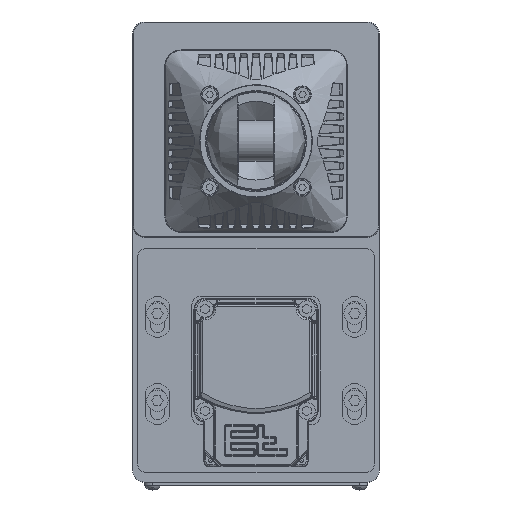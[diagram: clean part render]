
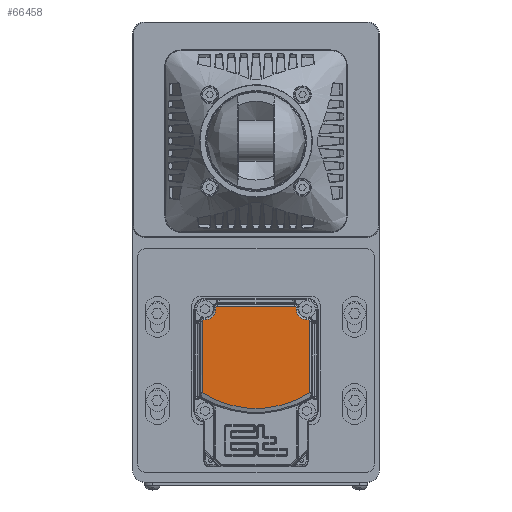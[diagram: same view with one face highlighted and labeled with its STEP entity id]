
A CAD part, top view. The second image highlights one B-rep face of the part: STEP entity #66458.
In plain terms, the highlighted planar face has unit normal (0, 0, 1).
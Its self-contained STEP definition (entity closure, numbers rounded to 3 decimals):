
#1190 = LINE ( 'NONE', #146391, #216400 ) ;
#4683 = CARTESIAN_POINT ( 'NONE',  ( 268.862, 78.586, 448.429 ) ) ;
#4698 = ORIENTED_EDGE ( 'NONE', *, *, #87255, .T. ) ;
#7681 = EDGE_CURVE ( 'NONE', #181042, #134661, #155809, .T. ) ;
#17870 = DIRECTION ( 'NONE',  ( 0., 1., 0. ) ) ;
#19426 = CARTESIAN_POINT ( 'NONE',  ( 277.062, 86.786, 448.429 ) ) ;
#20913 = VERTEX_POINT ( 'NONE', #4683 ) ;
#26207 = EDGE_CURVE ( 'NONE', #174732, #162903, #73092, .T. ) ;
#27582 = VERTEX_POINT ( 'NONE', #217280 ) ;
#29011 = LINE ( 'NONE', #86560, #155527 ) ;
#29278 = CARTESIAN_POINT ( 'NONE',  ( 334.296, 78.569, 448.429 ) ) ;
#33425 = EDGE_CURVE ( 'NONE', #169690, #83680, #216131, .T. ) ;
#36104 = EDGE_CURVE ( 'NONE', #162903, #27582, #137563, .T. ) ;
#36777 = AXIS2_PLACEMENT_3D ( 'NONE', #135337, #86142, #84954 ) ;
#39162 = CARTESIAN_POINT ( 'NONE',  ( 332.579, 79.586, 448.429 ) ) ;
#43099 = FACE_OUTER_BOUND ( 'NONE', #205046, .T. ) ;
#43243 = DIRECTION ( 'NONE',  ( 0., 0., 1. ) ) ;
#46270 = ORIENTED_EDGE ( 'NONE', *, *, #102351, .T. ) ;
#50025 = VERTEX_POINT ( 'NONE', #39162 ) ;
#52653 = DIRECTION ( 'NONE',  ( 0., -1., 0. ) ) ;
#54125 = ORIENTED_EDGE ( 'NONE', *, *, #7681, .T. ) ;
#55825 = VERTEX_POINT ( 'NONE', #215738 ) ;
#56664 = CARTESIAN_POINT ( 'NONE',  ( 277.476, 87.786, 448.429 ) ) ;
#58502 = ORIENTED_EDGE ( 'NONE', *, *, #191805, .T. ) ;
#62596 = CARTESIAN_POINT ( 'NONE',  ( 277.062, 86.068, 448.429 ) ) ;
#66458 = ADVANCED_FACE ( 'NONE', ( #43099 ), #189362, .T. ) ;
#67003 = CARTESIAN_POINT ( 'NONE',  ( 326.096, 86.786, 448.429 ) ) ;
#71844 = CARTESIAN_POINT ( 'NONE',  ( 268.862, 79.172, 448.429 ) ) ;
#73038 = EDGE_CURVE ( 'NONE', #185731, #148477, #1190, .T. ) ;
#73092 = LINE ( 'NONE', #216847, #146862 ) ;
#74474 = DIRECTION ( 'NONE',  ( -1., 0., 0. ) ) ;
#82206 = CARTESIAN_POINT ( 'NONE',  ( 269.862, 79.586, 448.429 ) ) ;
#82732 = CARTESIAN_POINT ( 'NONE',  ( 301.579, 86.368, 448.429 ) ) ;
#83680 = VERTEX_POINT ( 'NONE', #62596 ) ;
#84954 = DIRECTION ( 'NONE',  ( 0., 1., 0. ) ) ;
#86142 = DIRECTION ( 'NONE',  ( 0., 0., 1. ) ) ;
#86546 = DIRECTION ( 'NONE',  ( 0., 0., -1. ) ) ;
#86560 = CARTESIAN_POINT ( 'NONE',  ( 332.579, 79.586, 448.429 ) ) ;
#87255 = EDGE_CURVE ( 'NONE', #235136, #55825, #98462, .T. ) ;
#88640 = DIRECTION ( 'NONE',  ( 0., 0., -1. ) ) ;
#88670 = LINE ( 'NONE', #161740, #92834 ) ;
#89757 = CARTESIAN_POINT ( 'NONE',  ( 333.882, 79.586, 448.429 ) ) ;
#89841 = CARTESIAN_POINT ( 'NONE',  ( 269.276, 79.586, 448.429 ) ) ;
#92834 = VECTOR ( 'NONE', #52653, 1000. ) ;
#98462 = CIRCLE ( 'NONE', #155974, 60.8 ) ;
#99321 = VERTEX_POINT ( 'NONE', #128629 ) ;
#99555 = ORIENTED_EDGE ( 'NONE', *, *, #73038, .T. ) ;
#102351 = EDGE_CURVE ( 'NONE', #55825, #181042, #230561, .T. ) ;
#104761 = CARTESIAN_POINT ( 'NONE',  ( 334.296, 78.586, 448.429 ) ) ;
#107826 = DIRECTION ( 'NONE',  ( -1., 0., 0. ) ) ;
#110393 = VECTOR ( 'NONE', #107826, 1000. ) ;
#111048 = CARTESIAN_POINT ( 'NONE',  ( 270.579, 79.586, 448.429 ) ) ;
#114149 = VECTOR ( 'NONE', #139606, 1000. ) ;
#118919 = DIRECTION ( 'NONE',  ( -1., 0., 0. ) ) ;
#124044 = CARTESIAN_POINT ( 'NONE',  ( 325.097, 87.786, 448.429 ) ) ;
#125772 = CARTESIAN_POINT ( 'NONE',  ( 278.079, 87.786, 448.429 ) ) ;
#126049 = ORIENTED_EDGE ( 'NONE', *, *, #26207, .T. ) ;
#126870 = CARTESIAN_POINT ( 'NONE',  ( 332.579, 86.068, 448.429 ) ) ;
#126928 = CARTESIAN_POINT ( 'NONE',  ( 268.862, 78.586, 448.429 ) ) ;
#128629 = CARTESIAN_POINT ( 'NONE',  ( 278.062, 87.786, 448.429 ) ) ;
#130898 = CARTESIAN_POINT ( 'NONE',  ( 277.062, 87.372, 448.429 ) ) ;
#133686 =( BOUNDED_CURVE ( )  B_SPLINE_CURVE ( 3, ( #162185, #56664, #130898, #19426 ),
 .UNSPECIFIED., .F., .T. ) 
 B_SPLINE_CURVE_WITH_KNOTS ( ( 4, 4 ),
 ( 2.356, 3.927 ),
 .UNSPECIFIED. ) 
 CURVE ( )  GEOMETRIC_REPRESENTATION_ITEM ( )  RATIONAL_B_SPLINE_CURVE ( ( 1., 0.805, 0.805, 1. ) ) 
 REPRESENTATION_ITEM ( '' )  );
#134661 = VERTEX_POINT ( 'NONE', #211194 ) ;
#135337 = CARTESIAN_POINT ( 'NONE',  ( 264.079, 92.568, 448.429 ) ) ;
#137563 =( BOUNDED_CURVE ( )  B_SPLINE_CURVE ( 3, ( #230692, #216271, #233041, #124044 ),
 .UNSPECIFIED., .F., .F. ) 
 B_SPLINE_CURVE_WITH_KNOTS ( ( 4, 4 ),
 ( 2.356, 3.927 ),
 .UNSPECIFIED. ) 
 CURVE ( )  GEOMETRIC_REPRESENTATION_ITEM ( )  RATIONAL_B_SPLINE_CURVE ( ( 1., 0.805, 0.805, 1. ) ) 
 REPRESENTATION_ITEM ( '' )  );
#139044 = ORIENTED_EDGE ( 'NONE', *, *, #184688, .T. ) ;
#139606 = DIRECTION ( 'NONE',  ( 0., -1., 0. ) ) ;
#140863 = AXIS2_PLACEMENT_3D ( 'NONE', #156134, #86546, #229098 ) ;
#142521 = CARTESIAN_POINT ( 'NONE',  ( 334.296, 78.586, 448.429 ) ) ;
#144273 = CARTESIAN_POINT ( 'NONE',  ( 277.062, 86.068, 448.429 ) ) ;
#144717 = ORIENTED_EDGE ( 'NONE', *, *, #179639, .T. ) ;
#146391 = CARTESIAN_POINT ( 'NONE',  ( 269.879, 79.586, 448.429 ) ) ;
#146862 = VECTOR ( 'NONE', #17870, 1000. ) ;
#148477 = VERTEX_POINT ( 'NONE', #82206 ) ;
#148888 = EDGE_CURVE ( 'NONE', #27582, #99321, #235950, .T. ) ;
#155527 = VECTOR ( 'NONE', #118919, 1000. ) ;
#155809 =( BOUNDED_CURVE ( )  B_SPLINE_CURVE ( 3, ( #142521, #215543, #89757, #219046 ),
 .UNSPECIFIED., .F., .F. ) 
 B_SPLINE_CURVE_WITH_KNOTS ( ( 4, 4 ),
 ( 2.356, 3.927 ),
 .UNSPECIFIED. ) 
 CURVE ( )  GEOMETRIC_REPRESENTATION_ITEM ( )  RATIONAL_B_SPLINE_CURVE ( ( 1., 0.805, 0.805, 1. ) ) 
 REPRESENTATION_ITEM ( '' )  );
#155875 = DIRECTION ( 'NONE',  ( 0., 1., 0. ) ) ;
#155974 = AXIS2_PLACEMENT_3D ( 'NONE', #82732, #43243, #155875 ) ;
#156112 = CIRCLE ( 'NONE', #140863, 6.483 ) ;
#156134 = CARTESIAN_POINT ( 'NONE',  ( 270.579, 86.068, 448.429 ) ) ;
#161740 = CARTESIAN_POINT ( 'NONE',  ( 268.862, 35.763, 448.429 ) ) ;
#162185 = CARTESIAN_POINT ( 'NONE',  ( 278.062, 87.786, 448.429 ) ) ;
#162903 = VERTEX_POINT ( 'NONE', #67003 ) ;
#164447 = EDGE_CURVE ( 'NONE', #83680, #185731, #156112, .T. ) ;
#166443 = CARTESIAN_POINT ( 'NONE',  ( 268.862, 35.122, 448.429 ) ) ;
#169690 = VERTEX_POINT ( 'NONE', #211232 ) ;
#174732 = VERTEX_POINT ( 'NONE', #210694 ) ;
#178907 = VECTOR ( 'NONE', #234073, 1000. ) ;
#179639 = EDGE_CURVE ( 'NONE', #99321, #169690, #133686, .T. ) ;
#179931 =( BOUNDED_CURVE ( )  B_SPLINE_CURVE ( 3, ( #190144, #89841, #71844, #126928 ),
 .UNSPECIFIED., .F., .F. ) 
 B_SPLINE_CURVE_WITH_KNOTS ( ( 4, 4 ),
 ( 2.356, 3.927 ),
 .UNSPECIFIED. ) 
 CURVE ( )  GEOMETRIC_REPRESENTATION_ITEM ( )  RATIONAL_B_SPLINE_CURVE ( ( 1., 0.805, 0.805, 1. ) ) 
 REPRESENTATION_ITEM ( '' )  );
#181042 = VERTEX_POINT ( 'NONE', #104761 ) ;
#182075 = DIRECTION ( 'NONE',  ( 0., 1., 0. ) ) ;
#184688 = EDGE_CURVE ( 'NONE', #20913, #235136, #88670, .T. ) ;
#185731 = VERTEX_POINT ( 'NONE', #111048 ) ;
#189362 = PLANE ( 'NONE',  #36777 ) ;
#190144 = CARTESIAN_POINT ( 'NONE',  ( 269.862, 79.586, 448.429 ) ) ;
#191805 = EDGE_CURVE ( 'NONE', #148477, #20913, #179931, .T. ) ;
#197334 = ORIENTED_EDGE ( 'NONE', *, *, #164447, .T. ) ;
#201514 = AXIS2_PLACEMENT_3D ( 'NONE', #126870, #88640, #182075 ) ;
#204250 = EDGE_CURVE ( 'NONE', #134661, #50025, #29011, .T. ) ;
#204729 = EDGE_CURVE ( 'NONE', #50025, #174732, #205437, .T. ) ;
#205046 = EDGE_LOOP ( 'NONE', ( #58502, #139044, #4698, #46270, #54125, #224146, #227384, #126049, #218317, #221091, #144717, #231038, #197334, #99555 ) ) ;
#205437 = CIRCLE ( 'NONE', #201514, 6.483 ) ;
#210694 = CARTESIAN_POINT ( 'NONE',  ( 326.096, 86.068, 448.429 ) ) ;
#211194 = CARTESIAN_POINT ( 'NONE',  ( 333.297, 79.586, 448.429 ) ) ;
#211232 = CARTESIAN_POINT ( 'NONE',  ( 277.062, 86.786, 448.429 ) ) ;
#215543 = CARTESIAN_POINT ( 'NONE',  ( 334.296, 79.172, 448.429 ) ) ;
#215738 = CARTESIAN_POINT ( 'NONE',  ( 334.296, 35.122, 448.429 ) ) ;
#216131 = LINE ( 'NONE', #144273, #114149 ) ;
#216271 = CARTESIAN_POINT ( 'NONE',  ( 326.096, 87.372, 448.429 ) ) ;
#216400 = VECTOR ( 'NONE', #74474, 1000. ) ;
#216847 = CARTESIAN_POINT ( 'NONE',  ( 326.096, 86.769, 448.429 ) ) ;
#217280 = CARTESIAN_POINT ( 'NONE',  ( 325.097, 87.786, 448.429 ) ) ;
#218317 = ORIENTED_EDGE ( 'NONE', *, *, #36104, .T. ) ;
#219046 = CARTESIAN_POINT ( 'NONE',  ( 333.297, 79.586, 448.429 ) ) ;
#221091 = ORIENTED_EDGE ( 'NONE', *, *, #148888, .T. ) ;
#224146 = ORIENTED_EDGE ( 'NONE', *, *, #204250, .T. ) ;
#227384 = ORIENTED_EDGE ( 'NONE', *, *, #204729, .T. ) ;
#229098 = DIRECTION ( 'NONE',  ( 0., 1., 0. ) ) ;
#230561 = LINE ( 'NONE', #29278, #178907 ) ;
#230692 = CARTESIAN_POINT ( 'NONE',  ( 326.096, 86.786, 448.429 ) ) ;
#231038 = ORIENTED_EDGE ( 'NONE', *, *, #33425, .T. ) ;
#233041 = CARTESIAN_POINT ( 'NONE',  ( 325.682, 87.786, 448.429 ) ) ;
#234073 = DIRECTION ( 'NONE',  ( 0., 1., 0. ) ) ;
#235136 = VERTEX_POINT ( 'NONE', #166443 ) ;
#235950 = LINE ( 'NONE', #125772, #110393 ) ;
